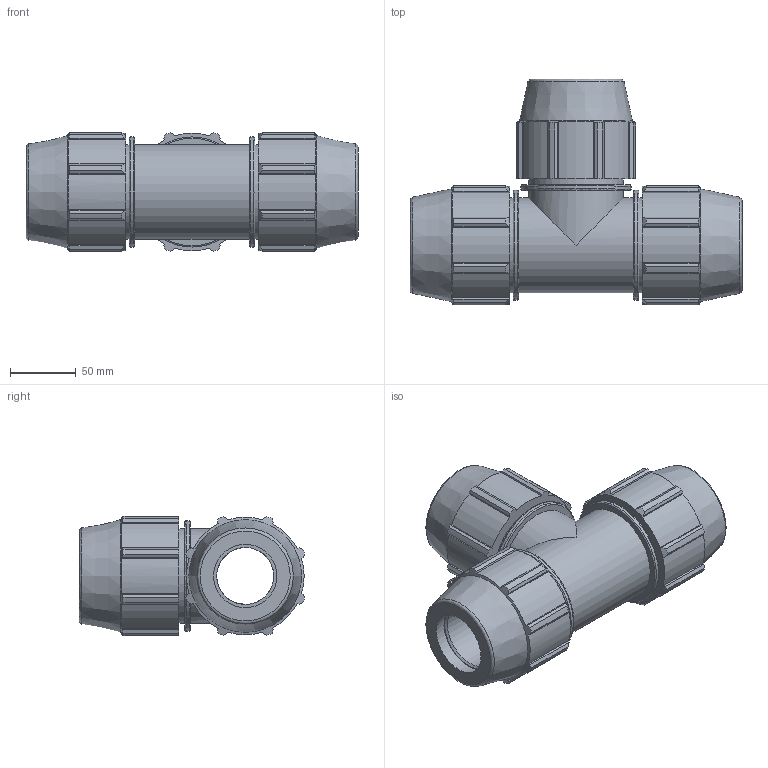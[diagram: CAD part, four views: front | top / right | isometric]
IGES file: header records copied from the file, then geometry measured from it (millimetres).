
Global section: file name: 0704M0150.ipt; native system: Autodesk Inventor 2019; preprocessor: unknown; author: KIM; date: 20210826.124543; units: inch
Bounding box: 251.97 x 171.15 x 90.34 mm (x, y, z)
Volume: 1188644 mm3; surface area: 167073.5 mm2
Topology: 1 solids, 1 shells, 212 faces, 606 edges, 411 vertices
Faces by surface type: plane 114, cylinder 56, cone 22, revolution 20
Full cylindrical faces by diameter (mm): 72.009 x5, 83.53 x3
